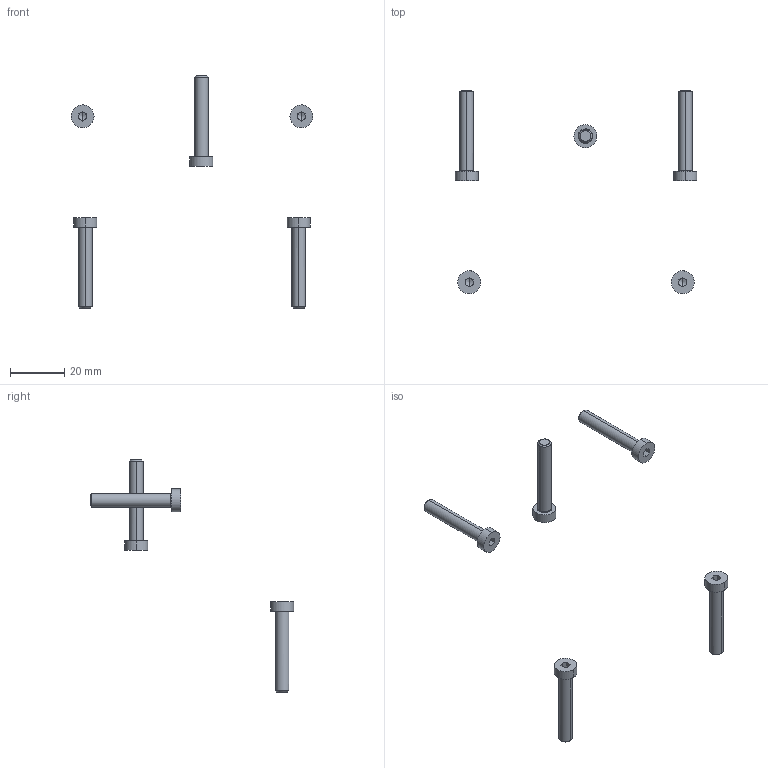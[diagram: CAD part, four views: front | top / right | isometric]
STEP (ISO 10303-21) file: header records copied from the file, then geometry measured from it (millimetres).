
FILE_DESCRIPTION(/* description */ (''),/* implementation_level */ '2;1');
FILE_NAME(/* name */ 'X-C0E0~1',/* time_stamp */ '2014-02-14T19:44:20+01:00',/* author */ (''),/* organization */ (''),/* preprocessor_version */ 'ST-DEVELOPER v14',/* originating_system */ '',/* authorisation */ '');
FILE_SCHEMA (('AUTOMOTIVE_DESIGN'));
Length unit declared in the file: millimetre
Products named in the file (2): Document; screw DIN7984-like, low, M5x30
Assembly tree (1 placements, depth 2):
  Document
    screw DIN7984-like, low, M5x30
Bounding box: 89.5 x 75.25 x 86 mm (x, y, z)
Volume: 3829.3 mm3; surface area: 3504.7 mm2
Topology: 5 solids, 5 shells, 125 faces, 295 edges, 180 vertices
Faces by surface type: plane 75, bspline 50
Entity records: 7704 total; most frequent: CARTESIAN_POINT 3869, B_SPLINE_CURVE_WITH_KNOTS 645, ORIENTED_EDGE 570, PCURVE 570, DEFINITIONAL_REPRESENTATION 570, SURFACE_CURVE 285, EDGE_CURVE 285, VERTEX_POINT 180
